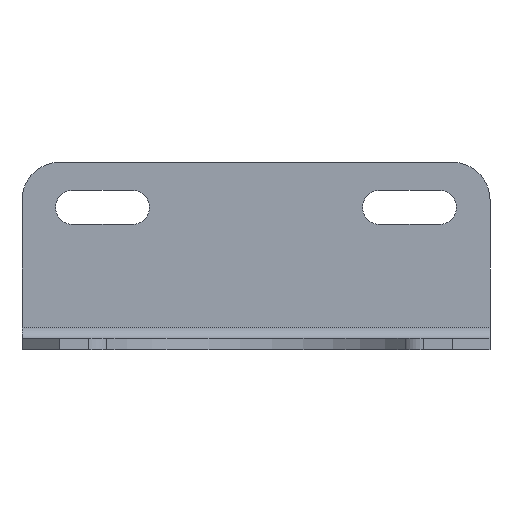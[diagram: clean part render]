
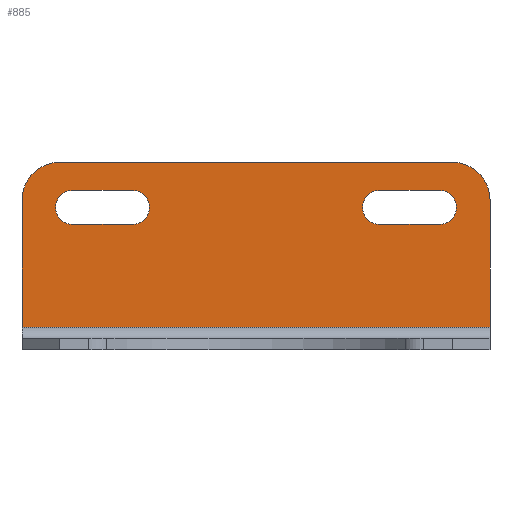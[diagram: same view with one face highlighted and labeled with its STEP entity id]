
A CAD part, front view. The second image highlights one B-rep face of the part: STEP entity #885.
In plain terms, the highlighted planar face has unit normal (0, -1, 0).
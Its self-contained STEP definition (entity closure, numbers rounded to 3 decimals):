
#313=CARTESIAN_POINT('',(125.0,46.,40.0));
#314=VERTEX_POINT('',#313);
#321=CARTESIAN_POINT('',(125.0,46.0,6.));
#322=VERTEX_POINT('',#321);
#323=CARTESIAN_POINT('',(125.0,46.0,6.));
#324=DIRECTION('',(0.0,0.0,1.0));
#325=VECTOR('',#324,34.);
#326=LINE('',#323,#325);
#327=EDGE_CURVE('',#322,#314,#326,.T.);
#363=CARTESIAN_POINT('',(95.5,46.,42.542));
#364=VERTEX_POINT('',#363);
#371=CARTESIAN_POINT('',(95.5,46.,33.458));
#372=VERTEX_POINT('',#371);
#373=CARTESIAN_POINT('',(95.5,46.,38.));
#374=DIRECTION('',(0.0,1.0,0.0));
#375=DIRECTION('',(0.0,0.0,-1.0));
#376=AXIS2_PLACEMENT_3D('',#373,#374,#375);
#377=CIRCLE('',#376,4.542);
#378=EDGE_CURVE('',#372,#364,#377,.T.);
#403=CARTESIAN_POINT('',(111.5,46.,33.458));
#404=VERTEX_POINT('',#403);
#405=CARTESIAN_POINT('',(111.5,46.,33.458));
#406=DIRECTION('',(-1.0,0.0,0.0));
#407=VECTOR('',#406,16.0);
#408=LINE('',#405,#407);
#409=EDGE_CURVE('',#404,#372,#408,.T.);
#435=CARTESIAN_POINT('',(111.5,46.,42.542));
#436=VERTEX_POINT('',#435);
#437=CARTESIAN_POINT('',(111.5,46.,38.0));
#438=DIRECTION('',(0.0,1.0,0.0));
#439=DIRECTION('',(0.0,0.0,1.0));
#440=AXIS2_PLACEMENT_3D('',#437,#438,#439);
#441=CIRCLE('',#440,4.542);
#442=EDGE_CURVE('',#436,#404,#441,.T.);
#465=CARTESIAN_POINT('',(95.5,46.,42.542));
#466=DIRECTION('',(1.0,0.0,0.0));
#467=VECTOR('',#466,16.0);
#468=LINE('',#465,#467);
#469=EDGE_CURVE('',#364,#436,#468,.T.);
#491=CARTESIAN_POINT('',(13.5,46.,42.542));
#492=VERTEX_POINT('',#491);
#499=CARTESIAN_POINT('',(13.5,46.,33.458));
#500=VERTEX_POINT('',#499);
#501=CARTESIAN_POINT('',(13.5,46.,38.0));
#502=DIRECTION('',(0.0,1.0,0.0));
#503=DIRECTION('',(0.0,0.0,1.0));
#504=AXIS2_PLACEMENT_3D('',#501,#502,#503);
#505=CIRCLE('',#504,4.542);
#506=EDGE_CURVE('',#500,#492,#505,.T.);
#531=CARTESIAN_POINT('',(29.5,46.,33.458));
#532=VERTEX_POINT('',#531);
#533=CARTESIAN_POINT('',(29.5,46.,33.458));
#534=DIRECTION('',(-1.0,0.0,0.0));
#535=VECTOR('',#534,16.0);
#536=LINE('',#533,#535);
#537=EDGE_CURVE('',#532,#500,#536,.T.);
#563=CARTESIAN_POINT('',(29.5,46.,42.542));
#564=VERTEX_POINT('',#563);
#565=CARTESIAN_POINT('',(29.5,46.,38.));
#566=DIRECTION('',(0.0,1.0,0.0));
#567=DIRECTION('',(0.0,0.0,-1.0));
#568=AXIS2_PLACEMENT_3D('',#565,#566,#567);
#569=CIRCLE('',#568,4.542);
#570=EDGE_CURVE('',#564,#532,#569,.T.);
#593=CARTESIAN_POINT('',(13.5,46.,42.542));
#594=DIRECTION('',(1.0,0.0,0.0));
#595=VECTOR('',#594,16.0);
#596=LINE('',#593,#595);
#597=EDGE_CURVE('',#492,#564,#596,.T.);
#608=CARTESIAN_POINT('',(0.0,46.,40.0));
#609=VERTEX_POINT('',#608);
#610=CARTESIAN_POINT('',(10.,46.,50.0));
#611=VERTEX_POINT('',#610);
#612=CARTESIAN_POINT('',(10.,46.,40.0));
#613=DIRECTION('',(0.0,1.,0.0));
#614=DIRECTION('',(-0.707,0.0,0.707));
#615=AXIS2_PLACEMENT_3D('',#612,#613,#614);
#616=CIRCLE('',#615,10.);
#617=EDGE_CURVE('',#609,#611,#616,.T.);
#702=CARTESIAN_POINT('',(115.,46.,50.0));
#703=VERTEX_POINT('',#702);
#704=CARTESIAN_POINT('',(115.,46.,50.0));
#705=DIRECTION('',(-1.0,0.0,0.0));
#706=VECTOR('',#705,105.0);
#707=LINE('',#704,#706);
#708=EDGE_CURVE('',#703,#611,#707,.T.);
#802=CARTESIAN_POINT('',(115.,46.,40.0));
#803=DIRECTION('',(0.0,1.,0.0));
#804=DIRECTION('',(0.707,0.0,0.707));
#805=AXIS2_PLACEMENT_3D('',#802,#803,#804);
#806=CIRCLE('',#805,10.);
#807=EDGE_CURVE('',#703,#314,#806,.T.);
#827=CARTESIAN_POINT('',(0.0,46.0,6.));
#828=VERTEX_POINT('',#827);
#836=CARTESIAN_POINT('',(0.0,46.,40.0));
#837=DIRECTION('',(0.0,0.0,-1.0));
#838=VECTOR('',#837,34.);
#839=LINE('',#836,#838);
#840=EDGE_CURVE('',#609,#828,#839,.T.);
#855=CARTESIAN_POINT('',(125.0,46.,50.0));
#856=DIRECTION('',(0.0,-1.0,0.0));
#857=DIRECTION('',(0.0,0.0,-1.0));
#858=AXIS2_PLACEMENT_3D('',#855,#856,#857);
#859=PLANE('',#858);
#860=ORIENTED_EDGE('',*,*,#617,.F.);
#861=ORIENTED_EDGE('',*,*,#840,.T.);
#862=CARTESIAN_POINT('',(125.0,46.0,6.));
#863=DIRECTION('',(-1.0,0.0,0.0));
#864=VECTOR('',#863,125.0);
#865=LINE('',#862,#864);
#866=EDGE_CURVE('',#322,#828,#865,.T.);
#867=ORIENTED_EDGE('',*,*,#866,.F.);
#868=ORIENTED_EDGE('',*,*,#327,.T.);
#869=ORIENTED_EDGE('',*,*,#807,.F.);
#870=ORIENTED_EDGE('',*,*,#708,.T.);
#871=EDGE_LOOP('',(#860,#861,#867,#868,#869,#870));
#872=FACE_OUTER_BOUND('',#871,.T.);
#873=ORIENTED_EDGE('',*,*,#442,.T.);
#874=ORIENTED_EDGE('',*,*,#409,.T.);
#875=ORIENTED_EDGE('',*,*,#378,.T.);
#876=ORIENTED_EDGE('',*,*,#469,.T.);
#877=EDGE_LOOP('',(#873,#874,#875,#876));
#878=FACE_BOUND('',#877,.T.);
#879=ORIENTED_EDGE('',*,*,#570,.T.);
#880=ORIENTED_EDGE('',*,*,#537,.T.);
#881=ORIENTED_EDGE('',*,*,#506,.T.);
#882=ORIENTED_EDGE('',*,*,#597,.T.);
#883=EDGE_LOOP('',(#879,#880,#881,#882));
#884=FACE_BOUND('',#883,.T.);
#885=ADVANCED_FACE('',(#872,#878,#884),#859,.T.);
